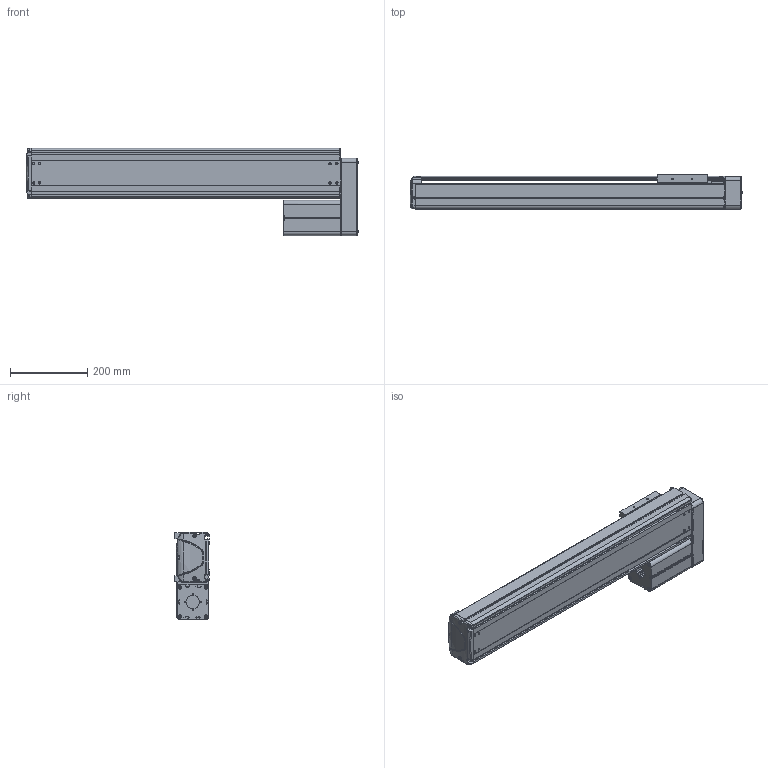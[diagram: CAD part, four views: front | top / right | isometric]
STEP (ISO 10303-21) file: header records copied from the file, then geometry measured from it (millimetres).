
FILE_DESCRIPTION((''),'2;1');
FILE_NAME('BE30E-UL-M_N-60_IGS_PRT','2017-06-17T',(' '),(''),'PRO/ENGINEER BY PARAMETRIC TECHNOLOGY CORPORATION, 2015030','PRO/ENGINEER BY PARAMETRIC TECHNOLOGY CORPORATION, 2015030','');
FILE_SCHEMA(('CONFIG_CONTROL_DESIGN'));
Products named in the file (1): BE30E-UL-M_N-60_IGS_PRT
Bounding box: 861.9 x 89.8 x 227 mm (x, y, z)
Volume: 2933176 mm3; surface area: 1293525.5 mm2
Topology: 2 solids, 116 shells, 1993 faces, 5353 edges, 3478 vertices
Faces by surface type: plane 984, cylinder 815, cone 103, torus 39, bspline 28, sphere 24
Entity records: 64360 total; most frequent: CARTESIAN_POINT 13575, DIRECTION 10741, ORIENTED_EDGE 10201, EDGE_CURVE 5315, AXIS2_PLACEMENT_3D 3773, VERTEX_POINT 3478, VECTOR 3195, LINE 3195
